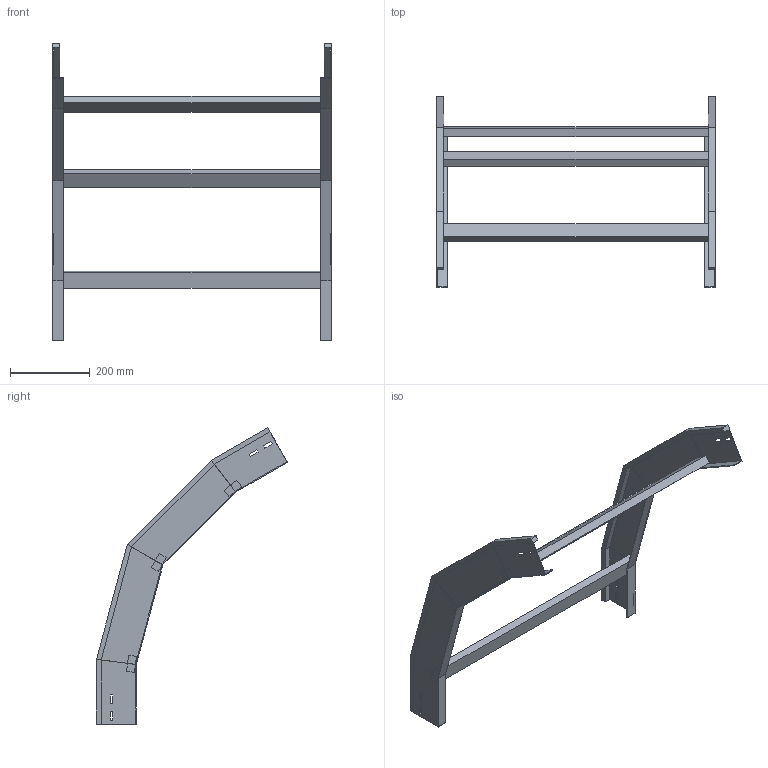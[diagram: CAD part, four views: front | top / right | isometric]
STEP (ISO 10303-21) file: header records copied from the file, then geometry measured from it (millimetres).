
FILE_DESCRIPTION (( 'STEP AP214' ), '1' );
FILE_NAME ('41B5D700.step', '2025-02-21T14:56:16', ( '' ), ( '' ), 'SwSTEP 2.0', 'SolidWorks 2023', '' );
FILE_SCHEMA (( 'AUTOMOTIVE_DESIGN' ));
Length unit declared in the file: millimetre
Products named in the file (3): LONGH.DISCESA_60°_H100_R500; 41B5D700; TRAVERSINO_700
Assembly tree (5 placements, depth 2):
  41B5D700
    LONGH.DISCESA_60°_H100_R500  x2
    TRAVERSINO_700  x3
Bounding box: 700 x 480.08 x 744.92 mm (x, y, z)
Volume: 2471636.7 mm3; surface area: 753809.5 mm2
Topology: 5 solids, 5 shells, 118 faces, 276 edges, 168 vertices
Faces by surface type: plane 118
Entity records: 1672 total; most frequent: CARTESIAN_POINT 276, ORIENTED_EDGE 264, DIRECTION 260, EDGE_CURVE 132, LINE 132, VECTOR 132, VERTEX_POINT 80, AXIS2_PLACEMENT_3D 64
